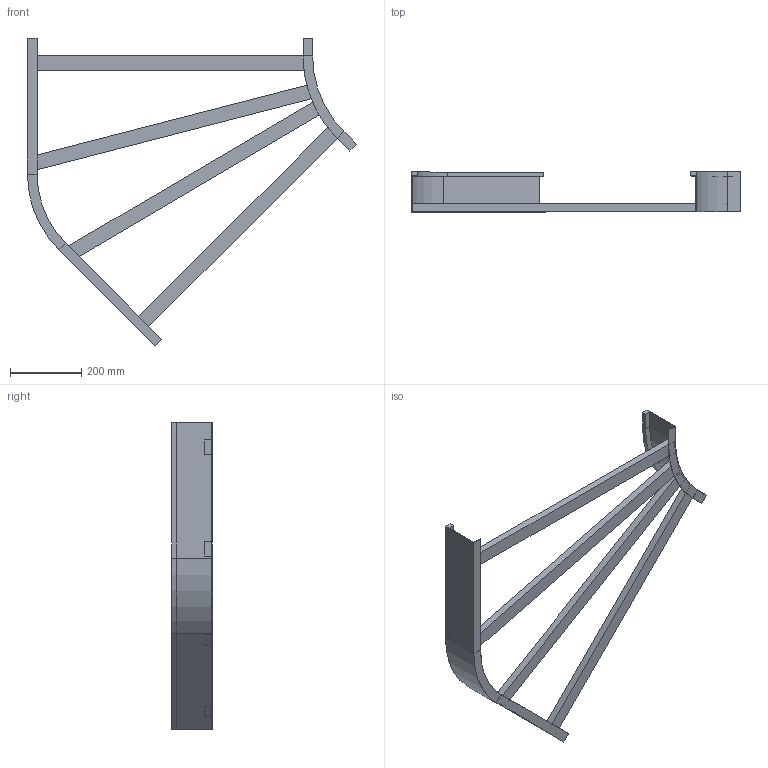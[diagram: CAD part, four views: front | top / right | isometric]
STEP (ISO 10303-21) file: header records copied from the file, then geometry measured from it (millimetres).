
FILE_DESCRIPTION (( 'STEP AP214' ), '1' );
FILE_NAME ('B2_11B3J800.step', '2025-02-21T15:15:08', ( '' ), ( '' ), 'SwSTEP 2.0', 'SolidWorks 2023', '' );
FILE_SCHEMA (( 'AUTOMOTIVE_DESIGN' ));
Length unit declared in the file: millimetre
Products named in the file (5): B2_LONGH.ESTERNO 45°_H112.5_R300+800; TRAVERSINO_900_SCANTONATO; B2_LONGH.INTERNO 45°_H112.5_R300; B2_11B3J800; TRAVERSINO_800
Assembly tree (6 placements, depth 2):
  B2_11B3J800
    B2_LONGH.INTERNO 45°_H112.5_R300
    B2_LONGH.ESTERNO 45°_H112.5_R300+800
    TRAVERSINO_800  x2
    TRAVERSINO_900_SCANTONATO  x2
Bounding box: 923.22 x 112.5 x 863.17 mm (x, y, z)
Volume: 3268428.9 mm3; surface area: 818450.6 mm2
Topology: 6 solids, 6 shells, 76 faces, 160 edges, 96 vertices
Faces by surface type: plane 68, cylinder 8
Entity records: 1830 total; most frequent: DIRECTION 298, CARTESIAN_POINT 289, ORIENTED_EDGE 272, EDGE_CURVE 136, LINE 120, VECTOR 120, AXIS2_PLACEMENT_3D 89, VERTEX_POINT 80
